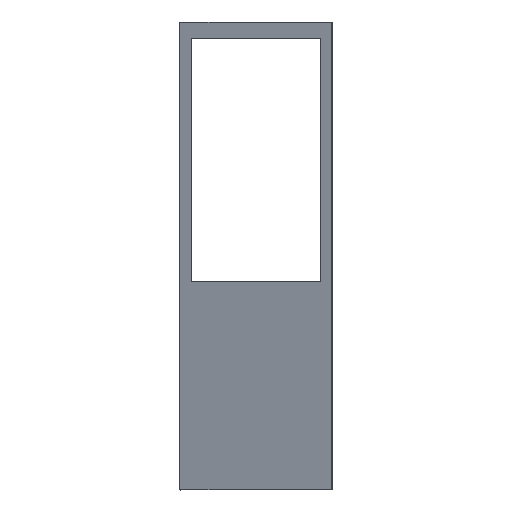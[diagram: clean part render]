
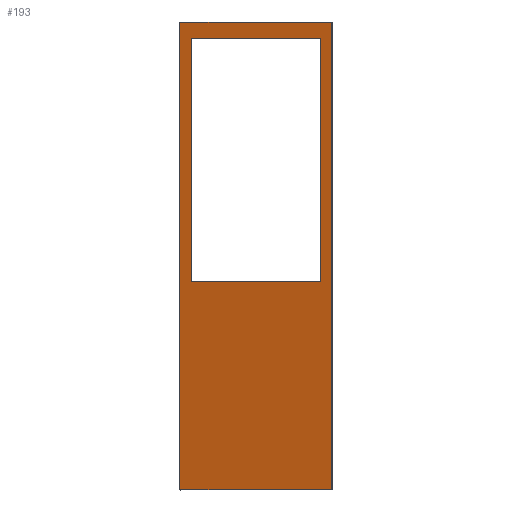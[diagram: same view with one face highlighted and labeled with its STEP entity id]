
A CAD part, top view. The second image highlights one B-rep face of the part: STEP entity #193.
In plain terms, the highlighted planar face has unit normal (-0.342, 0, 0.94).
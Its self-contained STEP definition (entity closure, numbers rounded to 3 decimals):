
#15=FACE_BOUND('',#36,.T.);
#25=FACE_OUTER_BOUND('',#35,.T.);
#35=EDGE_LOOP('',(#159,#160,#161,#162));
#36=EDGE_LOOP('',(#163,#164,#165,#166));
#39=LINE('',#269,#63);
#43=LINE('',#277,#67);
#46=LINE('',#283,#70);
#49=LINE('',#288,#73);
#53=LINE('',#297,#77);
#56=LINE('',#303,#80);
#59=LINE('',#309,#83);
#62=LINE('',#313,#86);
#63=VECTOR('',#223,10.);
#67=VECTOR('',#229,10.);
#70=VECTOR('',#234,10.);
#73=VECTOR('',#239,10.);
#77=VECTOR('',#245,10.);
#80=VECTOR('',#250,10.);
#83=VECTOR('',#255,10.);
#86=VECTOR('',#260,10.);
#87=VERTEX_POINT('',#267);
#88=VERTEX_POINT('',#268);
#91=VERTEX_POINT('',#276);
#93=VERTEX_POINT('',#282);
#97=VERTEX_POINT('',#294);
#98=VERTEX_POINT('',#296);
#100=VERTEX_POINT('',#302);
#102=VERTEX_POINT('',#308);
#103=EDGE_CURVE('',#87,#88,#39,.T.);
#107=EDGE_CURVE('',#88,#91,#43,.T.);
#110=EDGE_CURVE('',#91,#93,#46,.T.);
#113=EDGE_CURVE('',#93,#87,#49,.T.);
#117=EDGE_CURVE('',#98,#97,#53,.T.);
#120=EDGE_CURVE('',#100,#98,#56,.T.);
#123=EDGE_CURVE('',#102,#100,#59,.T.);
#126=EDGE_CURVE('',#97,#102,#62,.T.);
#159=ORIENTED_EDGE('',*,*,#126,.T.);
#160=ORIENTED_EDGE('',*,*,#123,.T.);
#161=ORIENTED_EDGE('',*,*,#120,.T.);
#162=ORIENTED_EDGE('',*,*,#117,.T.);
#163=ORIENTED_EDGE('',*,*,#110,.T.);
#164=ORIENTED_EDGE('',*,*,#113,.T.);
#165=ORIENTED_EDGE('',*,*,#103,.T.);
#166=ORIENTED_EDGE('',*,*,#107,.T.);
#183=PLANE('',#217);
#193=ADVANCED_FACE('',(#25,#15),#183,.T.);
#217=AXIS2_PLACEMENT_3D('',#314,#261,#262);
#223=DIRECTION('',(0.,-1.,0.));
#229=DIRECTION('',(-0.94,0.,-0.342));
#234=DIRECTION('',(0.,1.,0.));
#239=DIRECTION('',(0.94,0.,0.342));
#245=DIRECTION('',(-0.94,0.,-0.342));
#250=DIRECTION('',(0.,1.,0.));
#255=DIRECTION('',(0.94,0.,0.342));
#260=DIRECTION('',(0.,-1.,0.));
#261=DIRECTION('center_axis',(-0.342,0.,0.94));
#262=DIRECTION('ref_axis',(0.94,0.,0.342));
#267=CARTESIAN_POINT('',(550.97,635.,74.73));
#268=CARTESIAN_POINT('',(550.97,289.,74.73));
#269=CARTESIAN_POINT('',(550.97,307.,74.73));
#276=CARTESIAN_POINT('',(366.791,289.,7.694));
#277=CARTESIAN_POINT('',(412.836,289.,24.453));
#282=CARTESIAN_POINT('',(366.791,635.,7.694));
#283=CARTESIAN_POINT('',(366.791,480.,7.694));
#288=CARTESIAN_POINT('',(504.926,635.,57.971));
#294=CARTESIAN_POINT('',(350.816,658.,1.879));
#296=CARTESIAN_POINT('',(566.945,658.,80.544));
#297=CARTESIAN_POINT('',(566.945,658.,80.544));
#302=CARTESIAN_POINT('',(566.945,-8.,80.544));
#303=CARTESIAN_POINT('',(566.945,-8.,80.544));
#308=CARTESIAN_POINT('',(350.816,-8.,1.879));
#309=CARTESIAN_POINT('',(350.816,-8.,1.879));
#313=CARTESIAN_POINT('',(350.816,658.,1.879));
#314=CARTESIAN_POINT('Origin',(458.881,325.,41.212));
